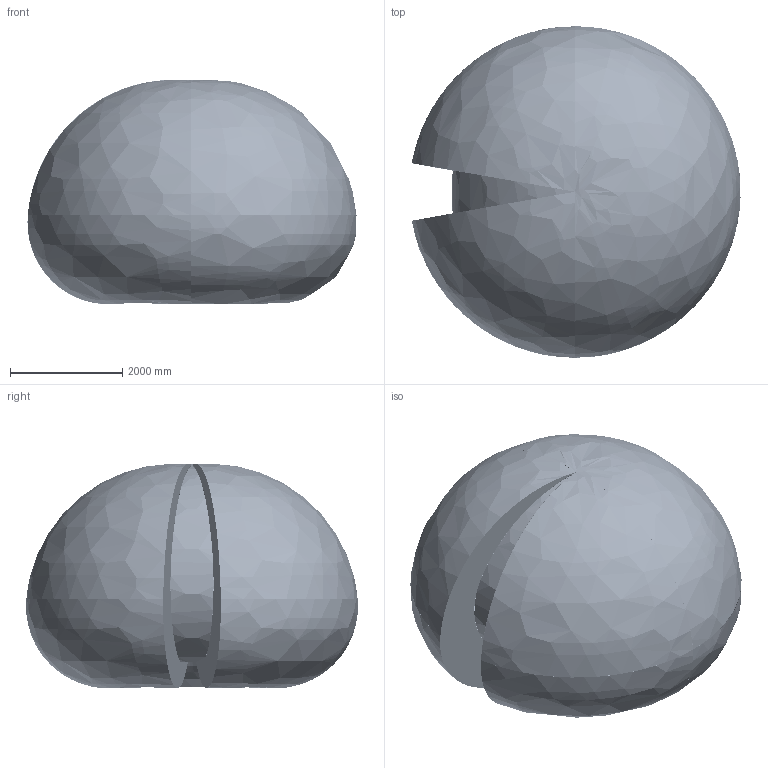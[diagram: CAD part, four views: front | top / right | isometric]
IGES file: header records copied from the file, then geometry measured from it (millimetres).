
Start section: SolidWorks IGES file using analytic representation for surfaces
Global section: file name: C:\Users\seamsto1\Desktop\Lättvikt\IRB6710_200kg-295_OC_00_SW_J\IRB6710_200kg-295_OC_00_IGES_J\IRB6710_200kg-295_OC_00_ASM_CAD.IGS; native system: SolidWorks 2020; preprocessor: SolidWorks 2020; author: SEAMSTO1; date: 230510.101238; units: millimetre
Bounding box: 5866.9 x 5919.5 x 4000.26 mm (x, y, z)
Surface area: 126315724.5 mm2 (no closed solid volume)
Topology: 0 solids, 0 shells, 7389 faces, 116421 edges, 116249 vertices
Faces by surface type: bspline 4187, revolution 3202
